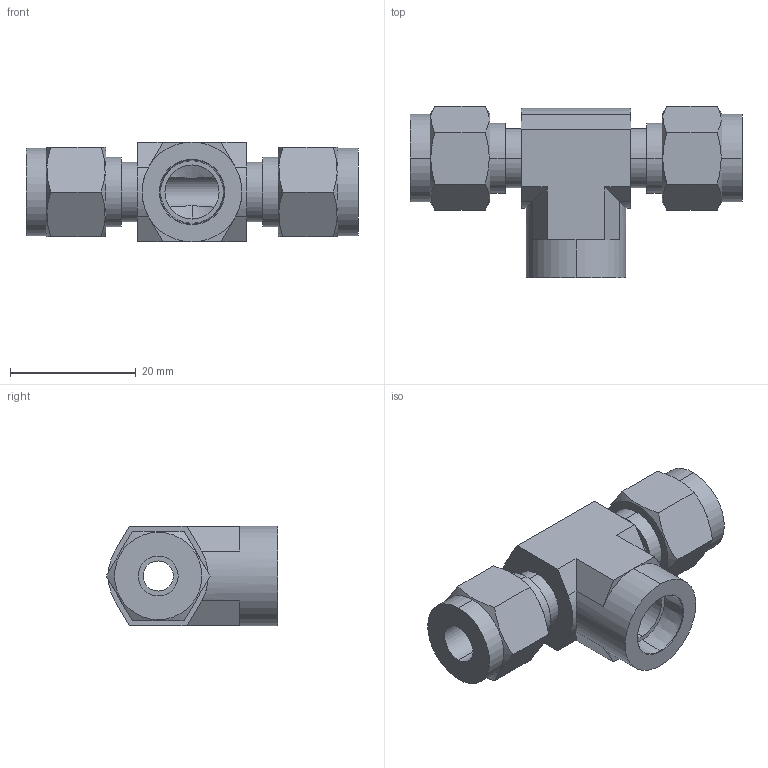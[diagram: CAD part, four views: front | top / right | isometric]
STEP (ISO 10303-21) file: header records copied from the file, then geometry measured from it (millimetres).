
FILE_DESCRIPTION (( 'STEP AP203' ), '1' );
FILE_NAME ('DTH04-02 SS.STEP', '2009-10-26T05:48:19', ( ' ' ), ( '' ), 'SwSTEP 2.0', 'SolidWorks 2008', '' );
FILE_SCHEMA (( 'CONFIG_CONTROL_DESIGN' ));
Length unit declared in the file: millimetre
Products named in the file (1): DTH04-02 SS
Bounding box: 52.8 x 27.25 x 15.9 mm (x, y, z)
Volume: 8820.9 mm3; surface area: 5243.6 mm2
Topology: 1 solids, 1 shells, 81 faces, 194 edges, 123 vertices
Faces by surface type: plane 40, cylinder 26, cone 15
Entity records: 2694 total; most frequent: CARTESIAN_POINT 750, ORIENTED_EDGE 388, DIRECTION 381, EDGE_CURVE 194, AXIS2_PLACEMENT_3D 144, VERTEX_POINT 123, EDGE_LOOP 93, VECTOR 93
